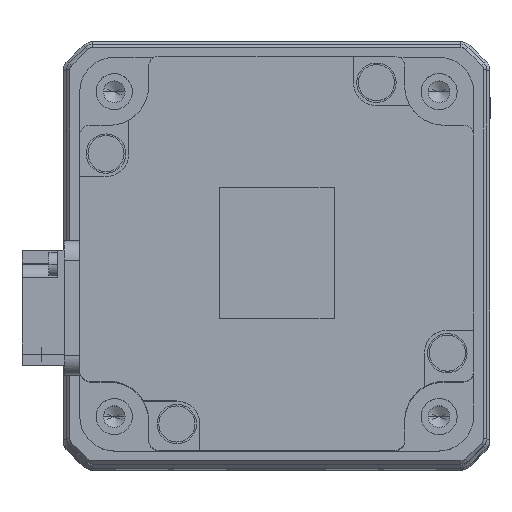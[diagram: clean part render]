
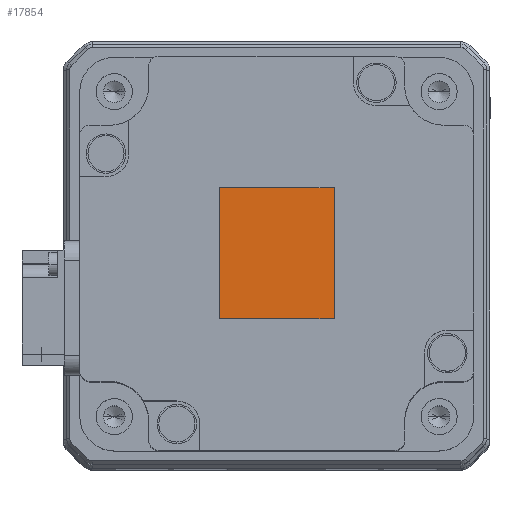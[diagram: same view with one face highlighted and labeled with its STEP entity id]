
A CAD part, top view. The second image highlights one B-rep face of the part: STEP entity #17854.
In plain terms, the highlighted planar face has unit normal (0, 0, 1) as drawn and (0, 0, -1) by its records, which use the part's own axes.
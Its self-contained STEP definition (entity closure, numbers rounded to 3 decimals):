
#112 = EDGE_CURVE ( 'NONE', #27217, #5175, #20840, .T. ) ;
#177 = VECTOR ( 'NONE', #17467, 1000. ) ;
#3084 = LINE ( 'NONE', #12159, #22988 ) ;
#3088 = CARTESIAN_POINT ( 'NONE',  ( 10., 8.75, -80.1 ) ) ;
#5175 = VERTEX_POINT ( 'NONE', #10542 ) ;
#6095 = EDGE_LOOP ( 'NONE', ( #18309, #29344, #10365, #10126 ) ) ;
#7205 = VECTOR ( 'NONE', #9738, 1000. ) ;
#8844 = CARTESIAN_POINT ( 'NONE',  ( 10., -8.75, -80.1 ) ) ;
#9557 = DIRECTION ( 'NONE',  ( -1., 0., 0. ) ) ;
#9738 = DIRECTION ( 'NONE',  ( 0., 1., 0. ) ) ;
#10126 = ORIENTED_EDGE ( 'NONE', *, *, #19895, .T. ) ;
#10143 = VERTEX_POINT ( 'NONE', #33104 ) ;
#10365 = ORIENTED_EDGE ( 'NONE', *, *, #112, .T. ) ;
#10542 = CARTESIAN_POINT ( 'NONE',  ( 10., -8.75, -80.1 ) ) ;
#10547 = CARTESIAN_POINT ( 'NONE',  ( -10., -8.75, -80.1 ) ) ;
#12159 = CARTESIAN_POINT ( 'NONE',  ( 10., -8.75, -80.1 ) ) ;
#14123 = LINE ( 'NONE', #30468, #7205 ) ;
#16686 = DIRECTION ( 'NONE',  ( -1., 0., 0. ) ) ;
#17135 = CARTESIAN_POINT ( 'NONE',  ( 10., 8.75, -80.1 ) ) ;
#17432 = EDGE_CURVE ( 'NONE', #10143, #27217, #27207, .T. ) ;
#17467 = DIRECTION ( 'NONE',  ( 0., -1., 0. ) ) ;
#17854 = ADVANCED_FACE ( 'NONE', ( #33240 ), #24421, .T. ) ;
#18309 = ORIENTED_EDGE ( 'NONE', *, *, #18907, .T. ) ;
#18907 = EDGE_CURVE ( 'NONE', #22328, #10143, #14123, .T. ) ;
#19895 = EDGE_CURVE ( 'NONE', #5175, #22328, #3084, .T. ) ;
#20840 = LINE ( 'NONE', #17135, #177 ) ;
#22328 = VERTEX_POINT ( 'NONE', #10547 ) ;
#22988 = VECTOR ( 'NONE', #9557, 1000. ) ;
#23979 = AXIS2_PLACEMENT_3D ( 'NONE', #8844, #32265, #16686 ) ;
#24421 = PLANE ( 'NONE',  #23979 ) ;
#26373 = VECTOR ( 'NONE', #33072, 1000. ) ;
#27207 = LINE ( 'NONE', #30505, #26373 ) ;
#27217 = VERTEX_POINT ( 'NONE', #3088 ) ;
#29344 = ORIENTED_EDGE ( 'NONE', *, *, #17432, .T. ) ;
#30468 = CARTESIAN_POINT ( 'NONE',  ( -10., 8.75, -80.1 ) ) ;
#30505 = CARTESIAN_POINT ( 'NONE',  ( 10., 8.75, -80.1 ) ) ;
#32265 = DIRECTION ( 'NONE',  ( 0., 0., -1. ) ) ;
#33072 = DIRECTION ( 'NONE',  ( 1., 0., 0. ) ) ;
#33104 = CARTESIAN_POINT ( 'NONE',  ( -10., 8.75, -80.1 ) ) ;
#33240 = FACE_OUTER_BOUND ( 'NONE', #6095, .T. ) ;
